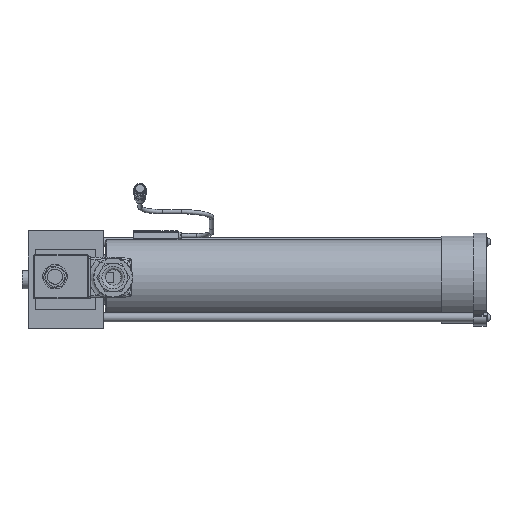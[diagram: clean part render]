
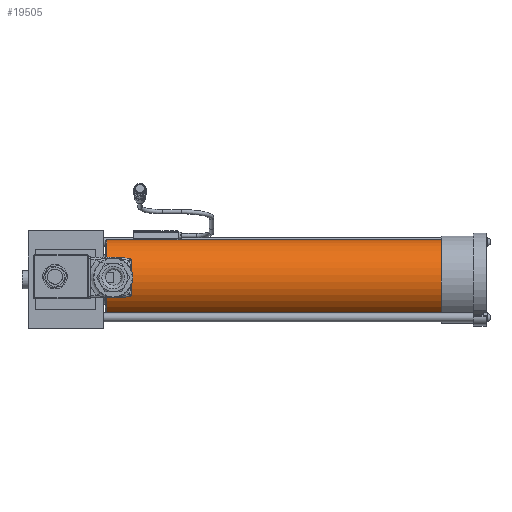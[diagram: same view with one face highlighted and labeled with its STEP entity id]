
A CAD part, left-side view. The second image highlights one B-rep face of the part: STEP entity #19505.
In plain terms, the highlighted cylindrical face has radius 26.5 mm (diameter 53 mm), a full revolution.
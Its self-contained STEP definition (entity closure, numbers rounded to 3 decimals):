
#220 = CARTESIAN_POINT ( 'NONE',  ( 26.5, 0., 244. ) ) ;
#631 = DIRECTION ( 'NONE',  ( 1., 0., 0. ) ) ;
#1745 = DIRECTION ( 'NONE',  ( 0., 0., -1. ) ) ;
#3105 = CARTESIAN_POINT ( 'NONE',  ( 0., 0., 244. ) ) ;
#4539 = AXIS2_PLACEMENT_3D ( 'NONE', #12235, #23358, #631 ) ;
#9191 = EDGE_LOOP ( 'NONE', ( #11378 ) ) ;
#11378 = ORIENTED_EDGE ( 'NONE', *, *, #31250, .T. ) ;
#12235 = CARTESIAN_POINT ( 'NONE',  ( 0., 0., 0. ) ) ;
#12899 = AXIS2_PLACEMENT_3D ( 'NONE', #41252, #1745, #36848 ) ;
#13116 = CYLINDRICAL_SURFACE ( 'NONE', #12899, 26.5 ) ;
#16329 = AXIS2_PLACEMENT_3D ( 'NONE', #3105, #19368, #26323 ) ;
#17769 = FACE_OUTER_BOUND ( 'NONE', #9191, .T. ) ;
#19368 = DIRECTION ( 'NONE',  ( 0., 0., -1. ) ) ;
#19505 = ADVANCED_FACE ( 'NONE', ( #48511, #17769 ), #13116, .T. ) ;
#23358 = DIRECTION ( 'NONE',  ( 0., 0., 1. ) ) ;
#26323 = DIRECTION ( 'NONE',  ( 1., 0., 0. ) ) ;
#27555 = VERTEX_POINT ( 'NONE', #220 ) ;
#31250 = EDGE_CURVE ( 'NONE', #34302, #34302, #49101, .T. ) ;
#34302 = VERTEX_POINT ( 'NONE', #34560 ) ;
#34560 = CARTESIAN_POINT ( 'NONE',  ( 26.5, 0., 0. ) ) ;
#36848 = DIRECTION ( 'NONE',  ( -1., 0., 0. ) ) ;
#37739 = ORIENTED_EDGE ( 'NONE', *, *, #45295, .T. ) ;
#38561 = CIRCLE ( 'NONE', #16329, 26.5 ) ;
#39926 = EDGE_LOOP ( 'NONE', ( #37739 ) ) ;
#41252 = CARTESIAN_POINT ( 'NONE',  ( 0., 0., 245. ) ) ;
#45295 = EDGE_CURVE ( 'NONE', #27555, #27555, #38561, .T. ) ;
#48511 = FACE_OUTER_BOUND ( 'NONE', #39926, .T. ) ;
#49101 = CIRCLE ( 'NONE', #4539, 26.5 ) ;
